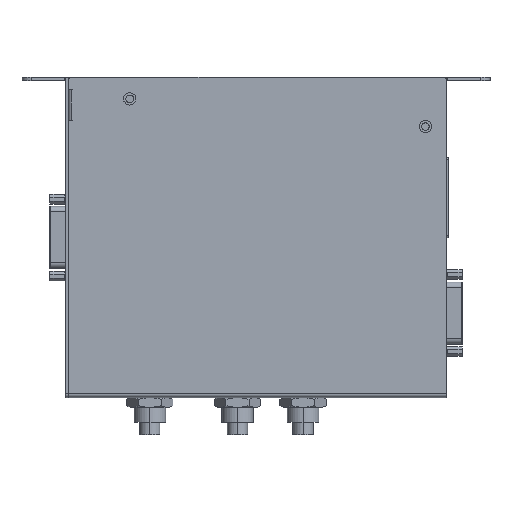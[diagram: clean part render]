
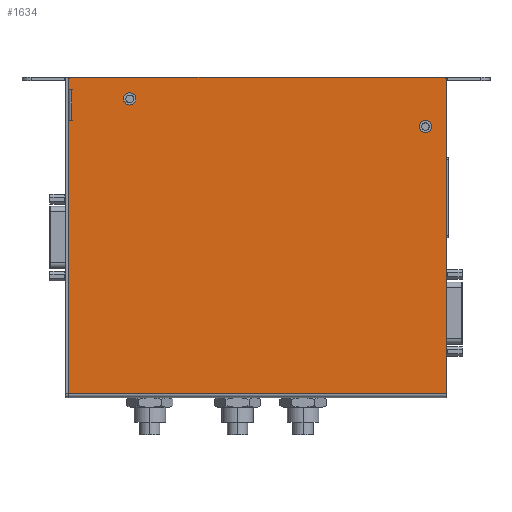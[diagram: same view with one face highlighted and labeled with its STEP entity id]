
A CAD part, top view. The second image highlights one B-rep face of the part: STEP entity #1634.
In plain terms, the highlighted planar face has unit normal (0, 0, 1).
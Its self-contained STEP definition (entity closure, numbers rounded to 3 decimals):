
#221=FACE_BOUND('',#3608,.T.);
#222=FACE_BOUND('',#3609,.T.);
#1634=ADVANCED_FACE('',(#2537,#221,#222),#15210,.T.);
#2537=FACE_OUTER_BOUND('',#3607,.T.);
#3607=EDGE_LOOP('',(#7956,#7957,#7958,#7959,#7960,#7961,#7962,#7963,#7964,
#7965,#7966,#7967,#7968,#7969));
#3608=EDGE_LOOP('',(#7970,#7971));
#3609=EDGE_LOOP('',(#7972,#7973));
#7956=ORIENTED_EDGE('',*,*,#10583,.T.);
#7957=ORIENTED_EDGE('',*,*,#10498,.F.);
#7958=ORIENTED_EDGE('',*,*,#10514,.T.);
#7959=ORIENTED_EDGE('',*,*,#10515,.T.);
#7960=ORIENTED_EDGE('',*,*,#10516,.T.);
#7961=ORIENTED_EDGE('',*,*,#10517,.T.);
#7962=ORIENTED_EDGE('',*,*,#10518,.T.);
#7963=ORIENTED_EDGE('',*,*,#10519,.T.);
#7964=ORIENTED_EDGE('',*,*,#10520,.T.);
#7965=ORIENTED_EDGE('',*,*,#10500,.F.);
#7966=ORIENTED_EDGE('',*,*,#10521,.T.);
#7967=ORIENTED_EDGE('',*,*,#10522,.T.);
#7968=ORIENTED_EDGE('',*,*,#10586,.T.);
#7969=ORIENTED_EDGE('',*,*,#10523,.T.);
#7970=ORIENTED_EDGE('',*,*,#10599,.T.);
#7971=ORIENTED_EDGE('',*,*,#10486,.T.);
#7972=ORIENTED_EDGE('',*,*,#10490,.T.);
#7973=ORIENTED_EDGE('',*,*,#10597,.T.);
#10486=EDGE_CURVE('',#14706,#14705,#11301,.T.);
#10490=EDGE_CURVE('',#14710,#14709,#11303,.T.);
#10498=EDGE_CURVE('',#14717,#14718,#13211,.T.);
#10500=EDGE_CURVE('',#14719,#14720,#13213,.T.);
#10514=EDGE_CURVE('',#14717,#14733,#13227,.T.);
#10515=EDGE_CURVE('',#14733,#14734,#13228,.T.);
#10516=EDGE_CURVE('',#14734,#14735,#13229,.T.);
#10517=EDGE_CURVE('',#14735,#14736,#13230,.T.);
#10518=EDGE_CURVE('',#14736,#14737,#13231,.T.);
#10519=EDGE_CURVE('',#14737,#14738,#13232,.T.);
#10520=EDGE_CURVE('',#14738,#14720,#13233,.T.);
#10521=EDGE_CURVE('',#14719,#14739,#13234,.T.);
#10522=EDGE_CURVE('',#14739,#14740,#13235,.T.);
#10523=EDGE_CURVE('',#14741,#14742,#13236,.T.);
#10583=EDGE_CURVE('',#14742,#14718,#11317,.T.);
#10586=EDGE_CURVE('',#14740,#14741,#11319,.T.);
#10597=EDGE_CURVE('',#14709,#14710,#11329,.T.);
#10599=EDGE_CURVE('',#14705,#14706,#11331,.T.);
#11301=TRIMMED_CURVE($,#12013,(#29413),(#29414),.T.,.CARTESIAN.);
#11303=TRIMMED_CURVE($,#12015,(#29423),(#29424),.T.,.CARTESIAN.);
#11317=TRIMMED_CURVE($,#12029,(#29623),(#29624),.T.,.CARTESIAN.);
#11319=TRIMMED_CURVE($,#12031,(#29631),(#29632),.T.,.CARTESIAN.);
#11329=TRIMMED_CURVE($,#12041,(#29663),(#29664),.T.,.CARTESIAN.);
#11331=TRIMMED_CURVE($,#12043,(#29669),(#29670),.T.,.CARTESIAN.);
#12013=CIRCLE('',#17235,2.);
#12015=CIRCLE('',#17237,2.);
#12029=CIRCLE('',#17251,1.2);
#12031=CIRCLE('',#17253,1.2);
#12041=CIRCLE('',#17263,2.);
#12043=CIRCLE('',#17265,2.);
#13211=B_SPLINE_CURVE_WITH_KNOTS('',1,(#29441,#29442),.UNSPECIFIED.,.F.,
 .F.,(2,2),(0.,2.67),.UNSPECIFIED.);
#13213=B_SPLINE_CURVE_WITH_KNOTS('',1,(#29445,#29446),.UNSPECIFIED.,.F.,
 .F.,(2,2),(0.,88.67),.UNSPECIFIED.);
#13227=B_SPLINE_CURVE_WITH_KNOTS('',1,(#29473,#29474),.UNSPECIFIED.,.F.,
 .F.,(2,2),(0.,1.33),.UNSPECIFIED.);
#13228=B_SPLINE_CURVE_WITH_KNOTS('',1,(#29475,#29476),.UNSPECIFIED.,.F.,
 .F.,(2,2),(0.,0.13),.UNSPECIFIED.);
#13229=B_SPLINE_CURVE_WITH_KNOTS('',1,(#29477,#29478),.UNSPECIFIED.,.F.,
 .F.,(2,2),(0.,0.13),.UNSPECIFIED.);
#13230=B_SPLINE_CURVE_WITH_KNOTS('',1,(#29479,#29480),.UNSPECIFIED.,.F.,
 .F.,(2,2),(0.,10.),.UNSPECIFIED.);
#13231=B_SPLINE_CURVE_WITH_KNOTS('',1,(#29481,#29482),.UNSPECIFIED.,.F.,
 .F.,(2,2),(0.,0.13),.UNSPECIFIED.);
#13232=B_SPLINE_CURVE_WITH_KNOTS('',1,(#29483,#29484),.UNSPECIFIED.,.F.,
 .F.,(2,2),(0.,0.13),.UNSPECIFIED.);
#13233=B_SPLINE_CURVE_WITH_KNOTS('',1,(#29485,#29486),.UNSPECIFIED.,.F.,
 .F.,(2,2),(0.,1.33),.UNSPECIFIED.);
#13234=B_SPLINE_CURVE_WITH_KNOTS('',1,(#29487,#29488),.UNSPECIFIED.,.F.,
 .F.,(2,2),(0.,123.),.UNSPECIFIED.);
#13235=B_SPLINE_CURVE_WITH_KNOTS('',1,(#29489,#29490),.UNSPECIFIED.,.F.,
 .F.,(2,2),(0.,101.6),.UNSPECIFIED.);
#13236=B_SPLINE_CURVE_WITH_KNOTS('',1,(#29491,#29492),.UNSPECIFIED.,.F.,
 .F.,(2,2),(0.,120.6),.UNSPECIFIED.);
#14705=VERTEX_POINT('',#29191);
#14706=VERTEX_POINT('',#29192);
#14709=VERTEX_POINT('',#29195);
#14710=VERTEX_POINT('',#29196);
#14717=VERTEX_POINT('',#29203);
#14718=VERTEX_POINT('',#29204);
#14719=VERTEX_POINT('',#29205);
#14720=VERTEX_POINT('',#29206);
#14733=VERTEX_POINT('',#29219);
#14734=VERTEX_POINT('',#29220);
#14735=VERTEX_POINT('',#29221);
#14736=VERTEX_POINT('',#29222);
#14737=VERTEX_POINT('',#29223);
#14738=VERTEX_POINT('',#29224);
#14739=VERTEX_POINT('',#29225);
#14740=VERTEX_POINT('',#29226);
#14741=VERTEX_POINT('',#29227);
#14742=VERTEX_POINT('',#29228);
#15210=PLANE('',#17143);
#17143=AXIS2_PLACEMENT_3D('',#29072,#19294,$);
#17235=AXIS2_PLACEMENT_3D($,#29412,#19413,#19414);
#17237=AXIS2_PLACEMENT_3D($,#29422,#19417,#19418);
#17251=AXIS2_PLACEMENT_3D($,#29622,#19445,#19446);
#17253=AXIS2_PLACEMENT_3D($,#29630,#19449,#19450);
#17263=AXIS2_PLACEMENT_3D($,#29662,#19469,#19470);
#17265=AXIS2_PLACEMENT_3D($,#29668,#19473,#19474);
#19294=DIRECTION('',(0.,0.,1.));
#19413=DIRECTION('',(0.,0.,-1.));
#19414=DIRECTION('',(1.,0.,0.));
#19417=DIRECTION('',(0.,0.,-1.));
#19418=DIRECTION('',(1.,0.,0.));
#19445=DIRECTION('',(0.,0.,1.));
#19446=DIRECTION('',(0.,1.,0.));
#19449=DIRECTION('',(0.,0.,1.));
#19450=DIRECTION('',(1.,0.,0.));
#19469=DIRECTION('',(0.,0.,-1.));
#19470=DIRECTION('',(-1.,0.,0.));
#19473=DIRECTION('',(0.,0.,-1.));
#19474=DIRECTION('',(-1.,0.,0.));
#29072=CARTESIAN_POINT('',(-56.579,-73.923,0.));
#29191=CARTESIAN_POINT('',(-26.279,32.158,0.));
#29192=CARTESIAN_POINT('',(-22.279,32.158,0.));
#29195=CARTESIAN_POINT('',(69.721,23.158,0.));
#29196=CARTESIAN_POINT('',(73.721,23.158,0.));
#29203=CARTESIAN_POINT('',(-44.279,35.288,0.));
#29204=CARTESIAN_POINT('',(-44.279,37.958,0.));
#29205=CARTESIAN_POINT('',(-44.279,-63.642,0.));
#29206=CARTESIAN_POINT('',(-44.279,25.028,0.));
#29219=CARTESIAN_POINT('',(-42.949,35.288,0.));
#29220=CARTESIAN_POINT('',(-42.949,35.158,0.));
#29221=CARTESIAN_POINT('',(-43.079,35.158,0.));
#29222=CARTESIAN_POINT('',(-43.079,25.158,0.));
#29223=CARTESIAN_POINT('',(-42.949,25.158,0.));
#29224=CARTESIAN_POINT('',(-42.949,25.028,0.));
#29225=CARTESIAN_POINT('',(78.721,-63.642,0.));
#29226=CARTESIAN_POINT('',(78.721,37.958,0.));
#29227=CARTESIAN_POINT('',(77.521,39.158,0.));
#29228=CARTESIAN_POINT('',(-43.079,39.158,0.));
#29412=CARTESIAN_POINT('',(-24.279,32.158,0.));
#29413=CARTESIAN_POINT('',(-22.279,32.158,0.));
#29414=CARTESIAN_POINT('',(-26.279,32.158,0.));
#29422=CARTESIAN_POINT('',(71.721,23.158,0.));
#29423=CARTESIAN_POINT('',(73.721,23.158,0.));
#29424=CARTESIAN_POINT('',(69.721,23.158,0.));
#29441=CARTESIAN_POINT('',(-44.279,35.288,0.));
#29442=CARTESIAN_POINT('',(-44.279,37.958,0.));
#29445=CARTESIAN_POINT('',(-44.279,-63.642,0.));
#29446=CARTESIAN_POINT('',(-44.279,25.028,0.));
#29473=CARTESIAN_POINT('',(-44.279,35.288,0.));
#29474=CARTESIAN_POINT('',(-42.949,35.288,0.));
#29475=CARTESIAN_POINT('',(-42.949,35.288,0.));
#29476=CARTESIAN_POINT('',(-42.949,35.158,0.));
#29477=CARTESIAN_POINT('',(-42.949,35.158,0.));
#29478=CARTESIAN_POINT('',(-43.079,35.158,0.));
#29479=CARTESIAN_POINT('',(-43.079,35.158,0.));
#29480=CARTESIAN_POINT('',(-43.079,25.158,0.));
#29481=CARTESIAN_POINT('',(-43.079,25.158,0.));
#29482=CARTESIAN_POINT('',(-42.949,25.158,0.));
#29483=CARTESIAN_POINT('',(-42.949,25.158,0.));
#29484=CARTESIAN_POINT('',(-42.949,25.028,0.));
#29485=CARTESIAN_POINT('',(-42.949,25.028,0.));
#29486=CARTESIAN_POINT('',(-44.279,25.028,0.));
#29487=CARTESIAN_POINT('',(-44.279,-63.642,0.));
#29488=CARTESIAN_POINT('',(78.721,-63.642,0.));
#29489=CARTESIAN_POINT('',(78.721,-63.642,0.));
#29490=CARTESIAN_POINT('',(78.721,37.958,0.));
#29491=CARTESIAN_POINT('',(77.521,39.158,0.));
#29492=CARTESIAN_POINT('',(-43.079,39.158,0.));
#29622=CARTESIAN_POINT('',(-43.079,37.958,0.));
#29623=CARTESIAN_POINT('',(-43.079,39.158,0.));
#29624=CARTESIAN_POINT('',(-44.279,37.958,0.));
#29630=CARTESIAN_POINT('',(77.521,37.958,0.));
#29631=CARTESIAN_POINT('',(78.721,37.958,0.));
#29632=CARTESIAN_POINT('',(77.521,39.158,0.));
#29662=CARTESIAN_POINT('',(71.721,23.158,0.));
#29663=CARTESIAN_POINT('',(69.721,23.158,0.));
#29664=CARTESIAN_POINT('',(73.721,23.158,0.));
#29668=CARTESIAN_POINT('',(-24.279,32.158,0.));
#29669=CARTESIAN_POINT('',(-26.279,32.158,0.));
#29670=CARTESIAN_POINT('',(-22.279,32.158,0.));
